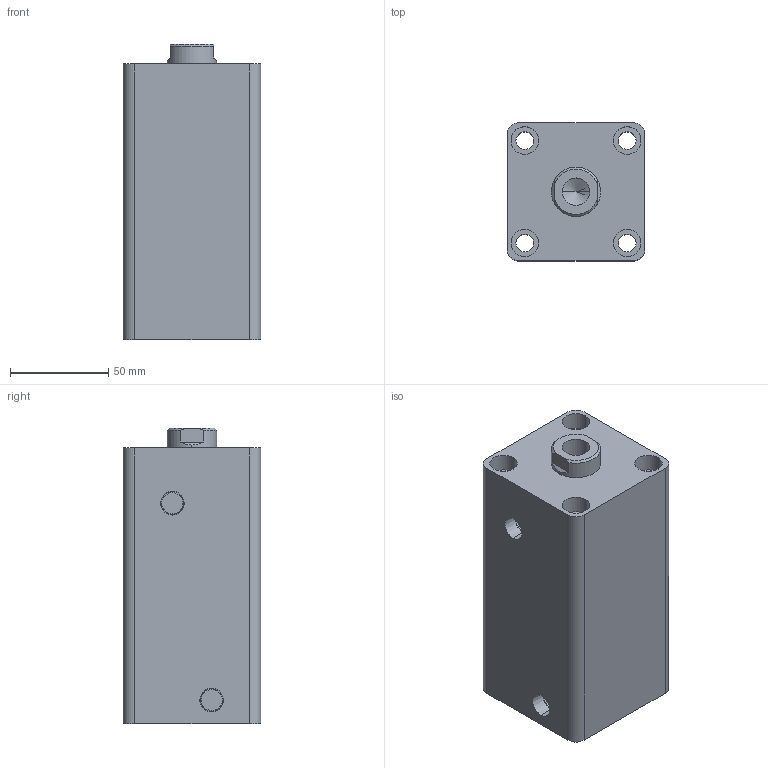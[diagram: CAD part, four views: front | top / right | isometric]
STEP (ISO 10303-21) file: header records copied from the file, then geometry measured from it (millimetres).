
FILE_DESCRIPTION (( 'STEP AP203' ), '1' );
FILE_NAME ('HTB-SD40-85N.STEP', '2019-10-07T06:57:02', ( '微软用户' ), ( '微软中国' ), 'SwSTEP 2.0', 'SolidWorks 2012', '' );
FILE_SCHEMA (( 'CONFIG_CONTROL_DESIGN' ));
Length unit declared in the file: millimetre
Products named in the file (3): HTB-SD40-85掛极; HTB-SD40-85N活塞杆; HTB-SD40-85N
Assembly tree (2 placements, depth 2):
  HTB-SD40-85N
    HTB-SD40-85掛极
    HTB-SD40-85N活塞杆
Bounding box: 70 x 70 x 150 mm (x, y, z)
Volume: 573912.7 mm3; surface area: 96375.3 mm2
Topology: 2 solids, 2 shells, 81 faces, 180 edges, 117 vertices
Faces by surface type: cylinder 42, plane 27, cone 8, torus 4
Entity records: 2603 total; most frequent: DIRECTION 444, CARTESIAN_POINT 409, ORIENTED_EDGE 356, AXIS2_PLACEMENT_3D 188, EDGE_CURVE 178, VERTEX_POINT 117, EDGE_LOOP 105, CIRCLE 102
